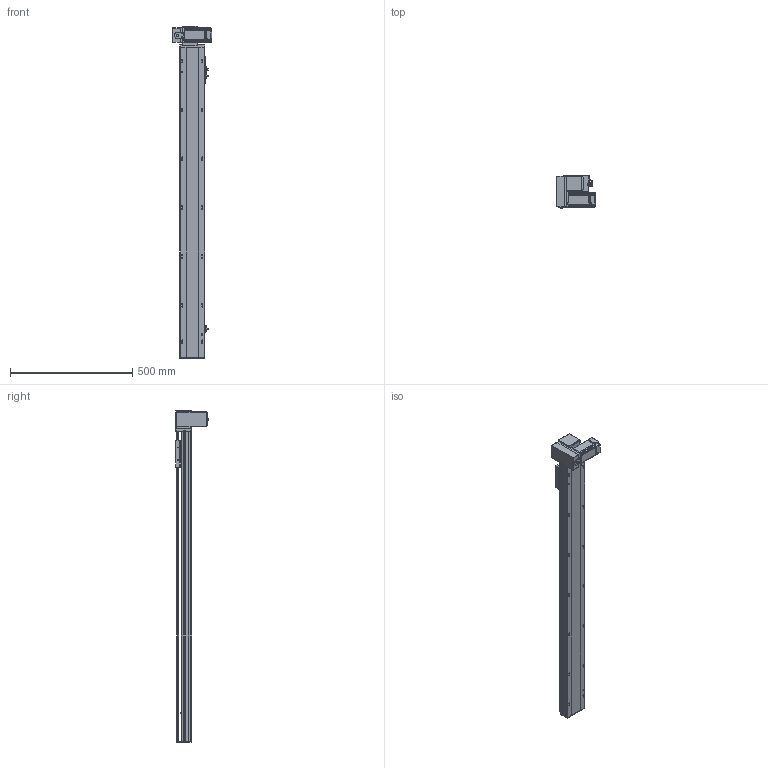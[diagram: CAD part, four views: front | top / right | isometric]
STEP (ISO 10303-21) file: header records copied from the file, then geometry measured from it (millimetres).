
FILE_DESCRIPTION (( 'STEP AP214' ), '1' );
FILE_NAME ('TPT10-L32-1050-LD-T10-C4.STEP', '2023-03-02T10:22:15', ( '' ), ( '' ), 'SwSTEP 2.0', 'SolidWorks 2020', '' );
FILE_SCHEMA (( 'AUTOMOTIVE_DESIGN' ));
Length unit declared in the file: millimetre
Products named in the file (12): 葩璃 侂狟100W^TPT10-L32-LD-T10-C4; 葩璃 TPT10-L-007 々湍釱MZ-169x88^TPT10-L32-LD-T10-C4_L; 葩璃 TPT10-L-002 奻裔MZ-102A-02^TPT10-L32-LD-T10-C4; 葩璃 TPT10-L-001 菁釱MZ-102A-01^TPT10-L32-LD-T10-C4; hexagon socket head cap screws gb_GB_FASTENER_SCREWS_HSHCS M3X6-N; TPT10-L32-1050-LD-T10-C4; 葩璃 侂狟400W^TPT10-L32-LD-T10-C4; hex nuts, style 1-grades ab gb_GB_FASTENER_NUT_SNAB1 M3-N; 葩璃 TPT10-L-005 賑釱MZ-102A-03^TPT10-L32-LD-T10-C4; 葩璃 pm-t65-672^TPT10-L32-LD-T10-C4; hexagon head bolts-full thread gb_GB_FASTENER_BOLT_STBAB A M5X16-N; 葩璃 TPT10-L-009 萇儂啣^TPT10-L32-LD-T10-C4_100W
Assembly tree (23 placements, depth 2):
  TPT10-L32-1050-LD-T10-C4
    葩璃 TPT10-L-001 菁釱MZ-102A-01^TPT10-L32-LD-T10-C4
    葩璃 TPT10-L-002 奻裔MZ-102A-02^TPT10-L32-LD-T10-C4
    葩璃 TPT10-L-007 々湍釱MZ-169x88^TPT10-L32-LD-T10-C4_L
    葩璃 TPT10-L-005 賑釱MZ-102A-03^TPT10-L32-LD-T10-C4
    葩璃 TPT10-L-009 萇儂啣^TPT10-L32-LD-T10-C4_100W
    葩璃 pm-t65-672^TPT10-L32-LD-T10-C4  x3
    葩璃 侂狟100W^TPT10-L32-LD-T10-C4
    葩璃 侂狟400W^TPT10-L32-LD-T10-C4
    hexagon head bolts-full thread gb_GB_FASTENER_BOLT_STBAB A M5X16-N
    hexagon socket head cap screws gb_GB_FASTENER_SCREWS_HSHCS M3X6-N  x6
    hex nuts, style 1-grades ab gb_GB_FASTENER_NUT_SNAB1 M3-N  x6
Bounding box: 160.5 x 134.65 x 1360 mm (x, y, z)
Volume: 4651745.3 mm3; surface area: 924428.9 mm2
Topology: 31 solids, 31 shells, 1939 faces, 5081 edges, 3247 vertices
Faces by surface type: plane 1056, cylinder 635, cone 202, bspline 34, torus 12
Entity records: 49271 total; most frequent: CARTESIAN_POINT 9708, DIRECTION 8052, ORIENTED_EDGE 7770, EDGE_CURVE 3885, AXIS2_PLACEMENT_3D 2836, VERTEX_POINT 2538, LINE 2380, VECTOR 2380
